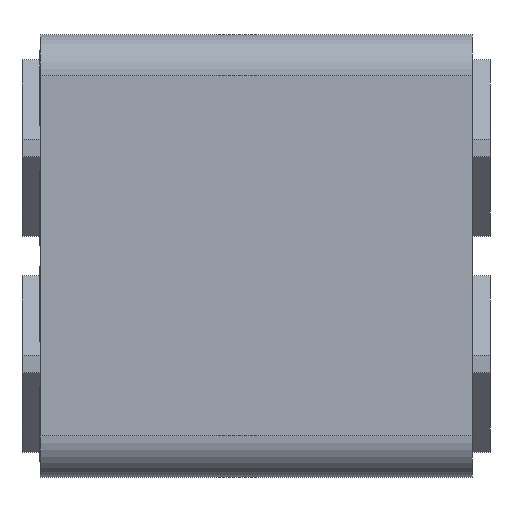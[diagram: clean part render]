
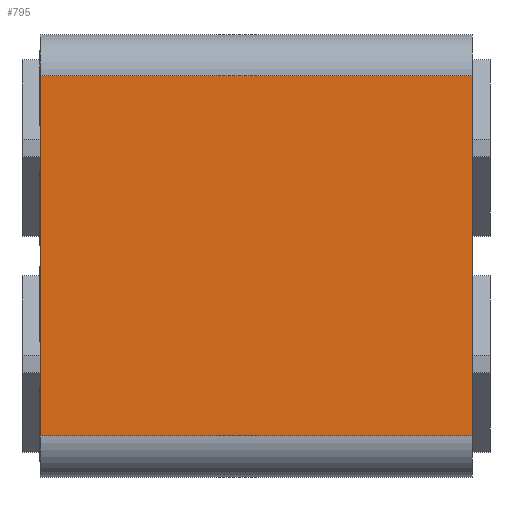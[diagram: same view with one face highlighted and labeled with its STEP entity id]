
A CAD part, left-side view. The second image highlights one B-rep face of the part: STEP entity #795.
In plain terms, the highlighted planar face has unit normal (-1, 0, 0).
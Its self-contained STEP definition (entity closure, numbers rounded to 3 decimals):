
#737=CARTESIAN_POINT('',(-31.5,120.0,50.));
#738=VERTEX_POINT('',#737);
#746=CARTESIAN_POINT('',(-31.5,0.0,50.));
#747=VERTEX_POINT('',#746);
#748=CARTESIAN_POINT('',(-31.5,0.0,50.));
#749=DIRECTION('',(0.0,1.0,0.0));
#750=VECTOR('',#749,120.0);
#751=LINE('',#748,#750);
#752=EDGE_CURVE('',#747,#738,#751,.T.);
#765=CARTESIAN_POINT('',(-31.5,0.0,50.));
#766=DIRECTION('',(-1.,0.0,0.));
#767=DIRECTION('',(0.,0.0,1.));
#768=AXIS2_PLACEMENT_3D('',#765,#766,#767);
#769=PLANE('',#768);
#770=CARTESIAN_POINT('',(-31.5,120.0,-50.));
#771=VERTEX_POINT('',#770);
#772=CARTESIAN_POINT('',(-31.5,120.0,50.));
#773=DIRECTION('',(0.,0.0,-1.));
#774=VECTOR('',#773,100.);
#775=LINE('',#772,#774);
#776=EDGE_CURVE('',#738,#771,#775,.T.);
#777=ORIENTED_EDGE('',*,*,#776,.T.);
#778=CARTESIAN_POINT('',(-31.5,0.0,-50.));
#779=VERTEX_POINT('',#778);
#780=CARTESIAN_POINT('',(-31.5,0.0,-50.));
#781=DIRECTION('',(0.0,1.0,0.0));
#782=VECTOR('',#781,120.0);
#783=LINE('',#780,#782);
#784=EDGE_CURVE('',#779,#771,#783,.T.);
#785=ORIENTED_EDGE('',*,*,#784,.F.);
#786=CARTESIAN_POINT('',(-31.5,0.0,-50.));
#787=DIRECTION('',(0.,0.0,1.));
#788=VECTOR('',#787,100.);
#789=LINE('',#786,#788);
#790=EDGE_CURVE('',#779,#747,#789,.T.);
#791=ORIENTED_EDGE('',*,*,#790,.T.);
#792=ORIENTED_EDGE('',*,*,#752,.T.);
#793=EDGE_LOOP('',(#777,#785,#791,#792));
#794=FACE_OUTER_BOUND('',#793,.T.);
#795=ADVANCED_FACE('',(#794),#769,.T.);
